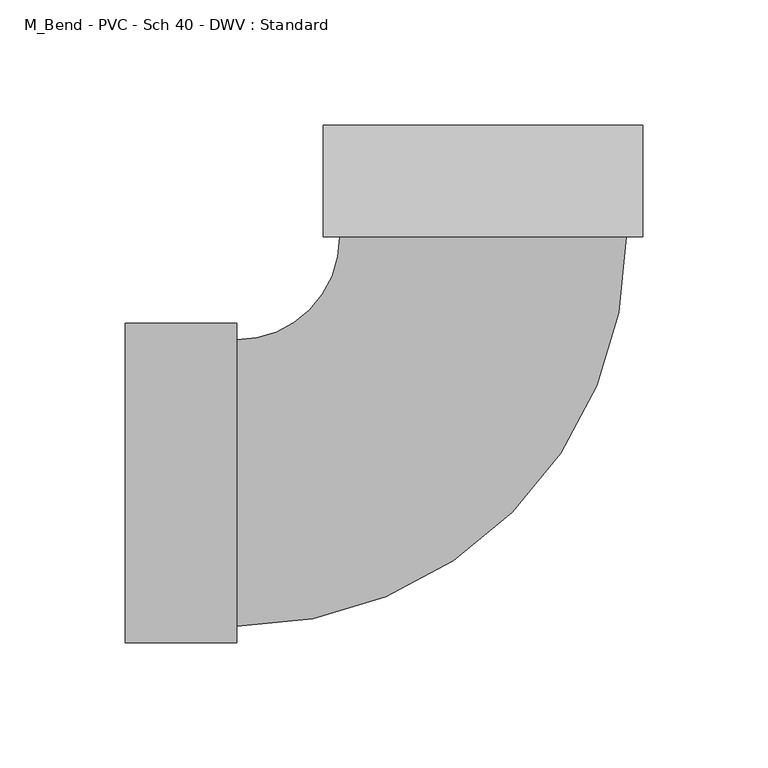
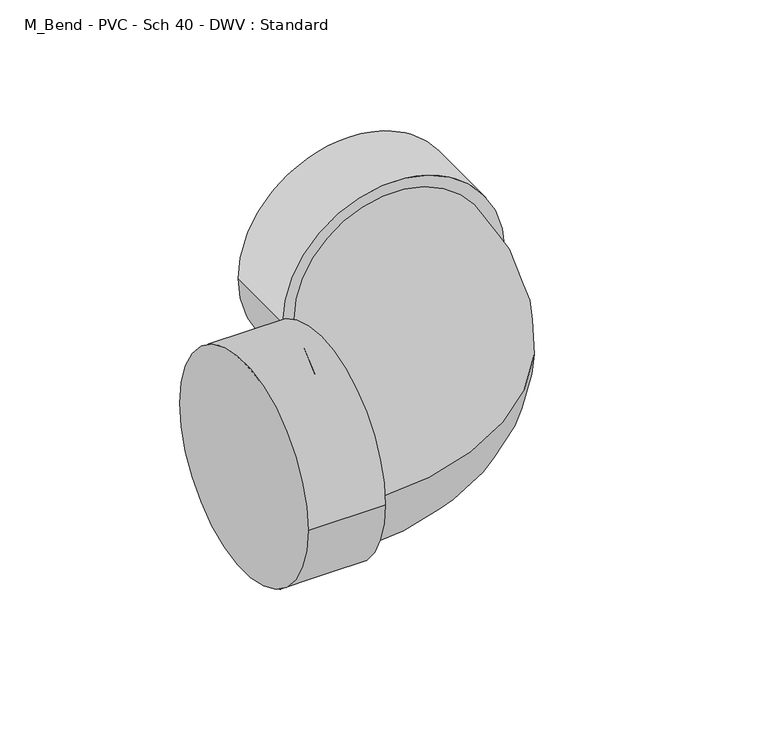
"""IFC4 building model written with IfcOpenShell, lengths in millimetres: pipe fitting geometry, M_Bend - PVC - Sch 40 - DWV : Standard."""

from ifc_helpers import new_model, si_unit, point, frame, origin, place, context, project, spatial, circle_curve, ellipse_curve, trimmed, source, transform, mapped, element, save
from ifc_brep_helpers import plane_surface, cylinder_surface, revolved_surface, advanced_brep


def m_bend_pvc_sch_40_dwv_standard_4f340cfc(model_context):
    return source(origin(), model_context, "Body", "AdvancedBrep", [
        advanced_brep(
        [(-142.875, -63.754, 0.0), (-142.875, 63.754, 0.0), (-98.425, -63.754, 0.0), (-98.425, 63.754, 0.0), (-98.425, -57.15, 0.0), (-98.425, 57.15, 0.0), (-57.149163, 98.425486, 0.0), (57.150837, 98.424514, 0.0), (63.754837, 98.4244579, 0.0), (-63.753163, 98.4255421, 0.0), (63.755215, 142.8744578, 0.0), (-63.752785, 142.8755421, 0.0)],
        [
            (0, 1, circle_curve(frame((-142.875, 0.0, 0.0), z_axis=(-1.0, 0.0, 0.0), x_axis=(0.0, 1.0, 0.0)), 63.754)),
            (1, 0, circle_curve(frame((-142.875, 0.0, 0.0), z_axis=(-1.0, 0.0, 0.0), x_axis=(0.0, 1.0, 0.0)), 63.754)),
            (2, 3, circle_curve(frame((-98.425, 0.0, 0.0), z_axis=(1.0, 0.0, 0.0), x_axis=(0.0, 1.0, 0.0)), 63.754)),
            (3, 2, circle_curve(frame((-98.425, 0.0, 0.0), z_axis=(1.0, 0.0, 0.0), x_axis=(0.0, 1.0, 0.0)), 63.754)),
            (4, 5, circle_curve(frame((-98.425, 0.0, 0.0), z_axis=(-1.0, 0.0, 0.0), x_axis=(0.0, 1.0, 0.0)), 57.15)),
            (5, 4, circle_curve(frame((-98.425, 0.0, 0.0), z_axis=(-1.0, 0.0, 0.0), x_axis=(0.0, 1.0, 0.0)), 57.15)),
            (0, 2),
            (3, 1),
            (6, 5, circle_curve(frame((-98.425, 98.425837, 0.0), z_axis=(0.0, 0.0, -1.0), x_axis=(0.0, -1.0, 0.0)), 41.275837)),
            (4, 7, circle_curve(frame((-98.425, 98.425837, 0.0), z_axis=(0.0, 0.0, 1.0), x_axis=(0.0, -1.0, 0.0)), 155.575837)),
            (7, 6, circle_curve(frame((0.000837, 98.425, 0.0), z_axis=(-8.503707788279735e-06, -0.9999999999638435, 0.0), x_axis=(-0.9999999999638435, 8.503707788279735e-06, 0.0)), 57.15)),
            (6, 7, circle_curve(frame((0.000837, 98.425, 0.0), z_axis=(-8.503707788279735e-06, -0.9999999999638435, 0.0), x_axis=(-0.9999999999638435, 8.503707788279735e-06, 0.0)), 57.15)),
            (8, 9, circle_curve(frame((0.000837, 98.425, 0.0), z_axis=(-8.503707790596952e-06, -0.9999999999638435, 0.0), x_axis=(-0.9999999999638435, 8.503707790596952e-06, 0.0)), 63.754)),
            (9, 8, circle_curve(frame((0.000837, 98.425, 0.0), z_axis=(-8.503707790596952e-06, -0.9999999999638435, 0.0), x_axis=(-0.9999999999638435, 8.503707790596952e-06, 0.0)), 63.754)),
            (10, 11, circle_curve(frame((0.001215, 142.875, 0.0), z_axis=(8.503707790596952e-06, 0.9999999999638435, 0.0), x_axis=(-0.9999999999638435, 8.503707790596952e-06, 0.0)), 63.754)),
            (11, 10, circle_curve(frame((0.001215, 142.875, 0.0), z_axis=(8.503707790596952e-06, 0.9999999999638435, 0.0), x_axis=(-0.9999999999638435, 8.503707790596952e-06, 0.0)), 63.754)),
            (8, 10),
            (11, 9),
        ],
        [
            plane_surface(frame((-142.875, 0.0, 0.0), z_axis=(-1.0, 0.0, 0.0), x_axis=(0.0, 0.0, 1.0))),
            plane_surface(frame((-98.425, 0.0, 0.0), z_axis=(1.0, 0.0, 0.0), x_axis=(0.0, 0.0, 1.0))),
            cylinder_surface(frame((-142.875, 0.0, 0.0), z_axis=(-1.0, 0.0, 0.0), x_axis=(0.0, 1.0, 0.0)), 63.754),
            revolved_surface(trimmed(ellipse_curve(frame((-98.425, 0.0, 0.0), z_axis=(-1.0, 0.0, 0.0), x_axis=(0.0, 1.0, 0.0)), 57.15, 57.15), [point((-98.425, -57.15, 0.0))], [point((-98.425, 57.15, 0.0))], True, "CARTESIAN"), (-98.425, 98.425837, 0.0), (0.0, 0.0, 1.0)),
            revolved_surface(trimmed(ellipse_curve(frame((-98.425, 0.0, 0.0), z_axis=(-1.0, 0.0, 0.0), x_axis=(0.0, 1.0, 0.0)), 57.15, 57.15), [point((-98.425, 57.15, 0.0))], [point((-98.425, -57.15, 0.0))], True, "CARTESIAN"), (-98.425, 98.425837, 0.0), (0.0, 0.0, 1.0)),
            plane_surface(frame((0.000837, 98.425, 0.0), z_axis=(-8.503707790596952e-06, -0.9999999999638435, 0.0), x_axis=(0.0, 0.0, 1.0))),
            plane_surface(frame((0.001215, 142.875, 0.0), z_axis=(8.503707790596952e-06, 0.9999999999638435, 0.0), x_axis=(0.0, 0.0, 1.0))),
            cylinder_surface(frame((0.000837, 98.425, 0.0), z_axis=(-8.503707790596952e-06, -0.9999999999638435, 0.0), x_axis=(-0.9999999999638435, 8.503707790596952e-06, 0.0)), 63.754),
        ],
        [
            (0, [[1, 2]]),
            (1, [[3, 4], [5, 6]]),
            (2, [[-1, 7, -4, 8]]),
            (2, [[-2, -8, -3, -7]]),
            (3, [[9, -5, 10, 11]]),
            (4, [[-9, 12, -10, -6]]),
            (5, [[13, 14], [-11, -12]]),
            (6, [[15, 16]]),
            (7, [[-13, 17, -16, 18]]),
            (7, [[-14, -18, -15, -17]]),
        ],
    ),
    ])


if __name__ == "__main__":
    model = new_model("IFC4")
    model_context = context("Model", 3, world=origin())
    ifc_project = project(units=[si_unit("LENGTHUNIT", "METRE", prefix="MILLI")], contexts=[model_context])
    site = spatial("IfcSite", under=ifc_project)
    building = spatial("IfcBuilding", under=site)
    placement = place(None, origin())
    m_bend_pvc_sch_40_dwv_standard_shape = m_bend_pvc_sch_40_dwv_standard_4f340cfc(model_context)
    element("IfcPipeFitting", 1, ObjectType="M_Bend - PVC - Sch 40 - DWV : Standard", at=placement, inside=building, context=model_context, shape_type="MappedRepresentation", body=[
        mapped(m_bend_pvc_sch_40_dwv_standard_shape, transform((0.0, 0.0, 0.0), x_axis=(1.0, 0.0, 0.0), y_axis=(0.0, 1.0, 0.0), z_axis=(0.0, 0.0, 1.0))),
    ])
    save(model, "model.ifc")
